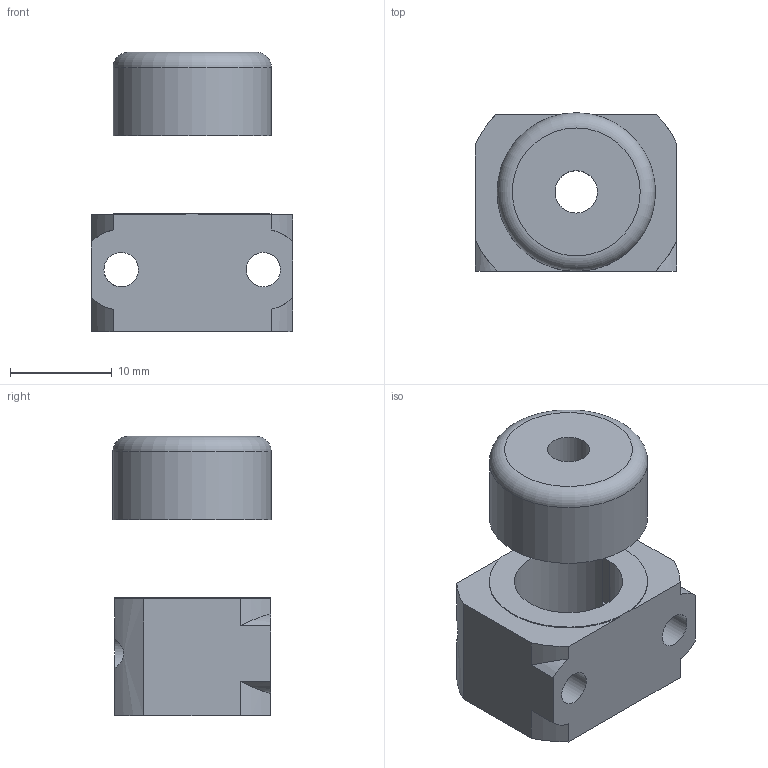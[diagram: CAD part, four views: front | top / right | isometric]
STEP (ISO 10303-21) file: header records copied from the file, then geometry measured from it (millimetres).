
FILE_DESCRIPTION(/* description */ (''),/* implementation_level */ '2;1');
FILE_NAME(/* name */ 'D:/Teil2/Dragon-Bond-Adapter v6.step',/* time_stamp */ '2022-02-21T09:57:21+07:00',/* author */ (''),/* organization */ (''),/* preprocessor_version */ 'ST-DEVELOPER v18.1',/* originating_system */ 'Autodesk Translation Framework v10.13.0.1454',/* authorisation */ '');
FILE_SCHEMA (('AUTOMOTIVE_DESIGN { 1 0 10303 214 3 1 1 }'));
Length unit declared in the file: millimetre
Products named in the file (1): Trianglelab-Bond-Adapter
Bounding box: 19.8 x 15.6 x 27.5 mm (x, y, z)
Volume: 3556 mm3; surface area: 2684.8 mm2
Topology: 2 solids, 2 shells, 37 faces, 110 edges, 73 vertices
Faces by surface type: cylinder 18, plane 16, torus 2, bspline 1
Full cylindrical faces by diameter (mm): 3.4 x2, 4.173 x1, 15.6 x1
Entity records: 1461 total; most frequent: CARTESIAN_POINT 402, ORIENTED_EDGE 220, DIRECTION 203, EDGE_CURVE 110, VERTEX_POINT 73, AXIS2_PLACEMENT_3D 71, LINE 61, VECTOR 61
